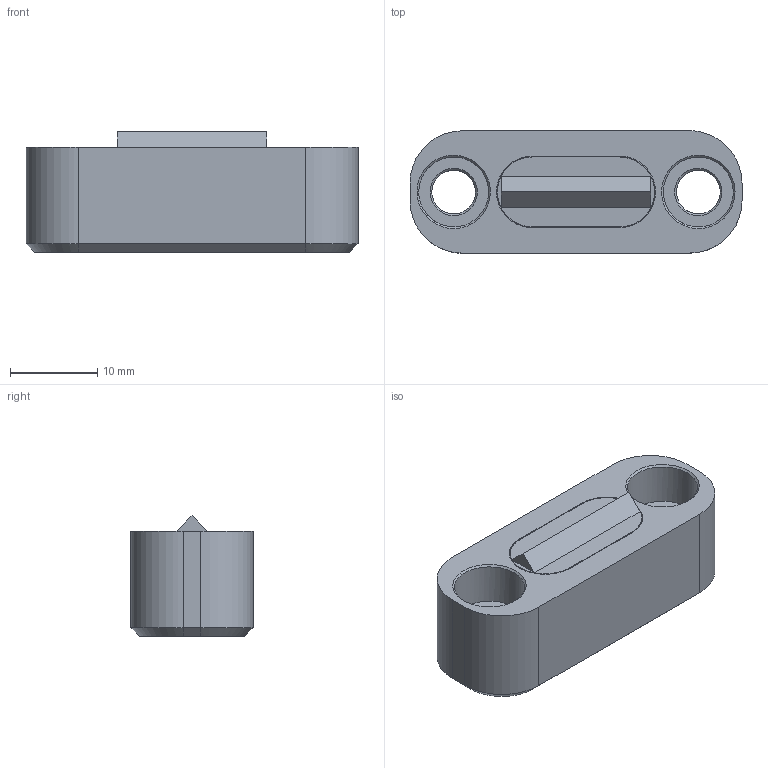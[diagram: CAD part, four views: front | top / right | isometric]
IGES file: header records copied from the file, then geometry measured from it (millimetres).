
Start section: C
Global section: file name: TRMZ5140-38.igs; native system: By Siemens PLM Incorporated; preprocessor: XPlus GENERIC/IGES 18.0.17; author: Author; organization: Title; date: 20240725.135432; units: millimetre
Bounding box: 38 x 14 x 13.8 mm (x, y, z)
Volume: 5240.5 mm3; surface area: 2505.7 mm2
Topology: 1 solids, 1 shells, 325 faces, 845 edges, 558 vertices
Faces by surface type: bspline 325
